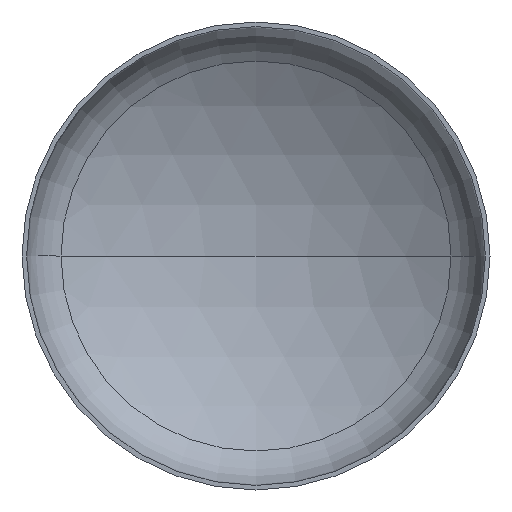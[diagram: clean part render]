
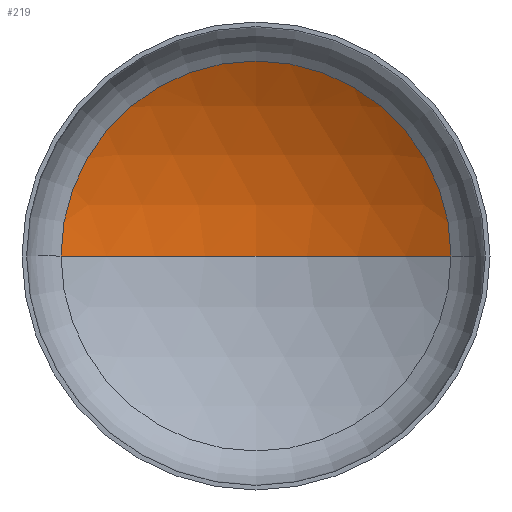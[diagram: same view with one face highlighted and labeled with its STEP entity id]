
A CAD part, front view. The second image highlights one B-rep face of the part: STEP entity #219.
In plain terms, the highlighted spherical face has radius 406 mm.
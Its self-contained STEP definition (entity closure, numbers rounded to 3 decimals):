
#1 = ORIENTED_EDGE ( 'NONE', *, *, #314, .T. ) ;
#5 = DIRECTION ( 'NONE',  ( 0., 0., -1. ) ) ;
#13 = CARTESIAN_POINT ( 'NONE',  ( 211.665, 86.561, 0. ) ) ;
#14 = EDGE_LOOP ( 'NONE', ( #20, #1, #112 ) ) ;
#20 = ORIENTED_EDGE ( 'NONE', *, *, #293, .F. ) ;
#23 = VERTEX_POINT ( 'NONE', #246 ) ;
#70 = VERTEX_POINT ( 'NONE', #333 ) ;
#112 = ORIENTED_EDGE ( 'NONE', *, *, #312, .T. ) ;
#118 = CARTESIAN_POINT ( 'NONE',  ( 0., 86.561, 0. ) ) ;
#127 = VERTEX_POINT ( 'NONE', #13 ) ;
#142 = DIRECTION ( 'NONE',  ( 0., 0., 1. ) ) ;
#144 = AXIS2_PLACEMENT_3D ( 'NONE', #218, #262, #239 ) ;
#146 = DIRECTION ( 'NONE',  ( 1., 0., 0. ) ) ;
#150 = CIRCLE ( 'NONE', #194, 406. ) ;
#170 = CARTESIAN_POINT ( 'NONE',  ( 0., -259.898, 0. ) ) ;
#173 = DIRECTION ( 'NONE',  ( -1., 0., 0. ) ) ;
#178 = CARTESIAN_POINT ( 'NONE',  ( 0., -259.898, 0. ) ) ;
#194 = AXIS2_PLACEMENT_3D ( 'NONE', #178, #142, #146 ) ;
#218 = CARTESIAN_POINT ( 'NONE',  ( 0., -259.898, 0. ) ) ;
#219 = ADVANCED_FACE ( 'NONE', ( #304 ), #284, .F. ) ;
#223 = DIRECTION ( 'NONE',  ( 0., -1., 0. ) ) ;
#239 = DIRECTION ( 'NONE',  ( -1., 0., 0. ) ) ;
#246 = CARTESIAN_POINT ( 'NONE',  ( -211.665, 86.561, 0. ) ) ;
#259 = AXIS2_PLACEMENT_3D ( 'NONE', #118, #223, #350 ) ;
#262 = DIRECTION ( 'NONE',  ( 0., 0., -1. ) ) ;
#271 = CIRCLE ( 'NONE', #259, 211.665 ) ;
#274 = AXIS2_PLACEMENT_3D ( 'NONE', #170, #5, #173 ) ;
#284 = SPHERICAL_SURFACE ( 'NONE', #144, 406. ) ;
#293 = EDGE_CURVE ( 'NONE', #70, #23, #150, .T. ) ;
#304 = FACE_OUTER_BOUND ( 'NONE', #14, .T. ) ;
#312 = EDGE_CURVE ( 'NONE', #127, #23, #271, .T. ) ;
#314 = EDGE_CURVE ( 'NONE', #70, #127, #346, .T. ) ;
#333 = CARTESIAN_POINT ( 'NONE',  ( 0., 146.102, 0. ) ) ;
#346 = CIRCLE ( 'NONE', #274, 406. ) ;
#350 = DIRECTION ( 'NONE',  ( 1., 0., 0. ) ) ;
